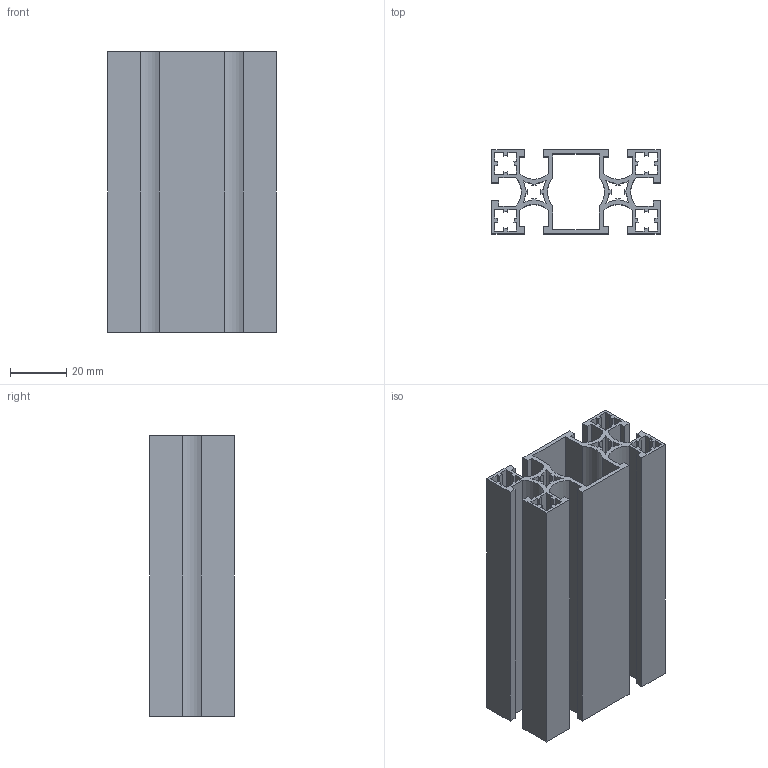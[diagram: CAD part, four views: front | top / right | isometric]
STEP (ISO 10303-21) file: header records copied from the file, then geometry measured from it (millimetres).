
FILE_DESCRIPTION(/* description */ ('Unknown'),/* implementation_level */ '2;1');
FILE_NAME(/* name */ 'NM3060A',/* time_stamp */ '2026-08-31T11:16:39+08:00',/* author */ ('Unknown'),/* organization */ ('Unknown'),/* preprocessor_version */ 'ST-DEVELOPER v16.7',/* originating_system */ 'DEX',/* authorisation */ $);
FILE_SCHEMA (('AUTOMOTIVE_DESIGN {1 0 10303 214 3 1 1}'));
Length unit declared in the file: millimetre
Products named in the file (1): 3060A-
Bounding box: 60 x 30 x 100 mm (x, y, z)
Volume: 46897.3 mm3; surface area: 66782.3 mm2
Topology: 1 solids, 1 shells, 182 faces, 540 edges, 360 vertices
Faces by surface type: plane 134, cylinder 48
Entity records: 6118 total; most frequent: CARTESIAN_POINT 1083, ORIENTED_EDGE 1080, DIRECTION 1002, EDGE_CURVE 540, LINE 444, VECTOR 444, VERTEX_POINT 360, AXIS2_PLACEMENT_3D 279
